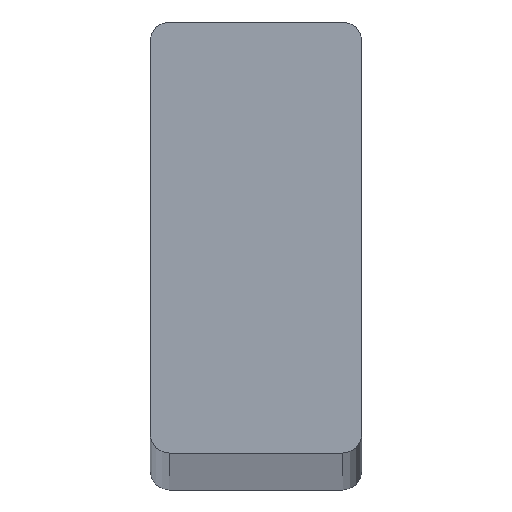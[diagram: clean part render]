
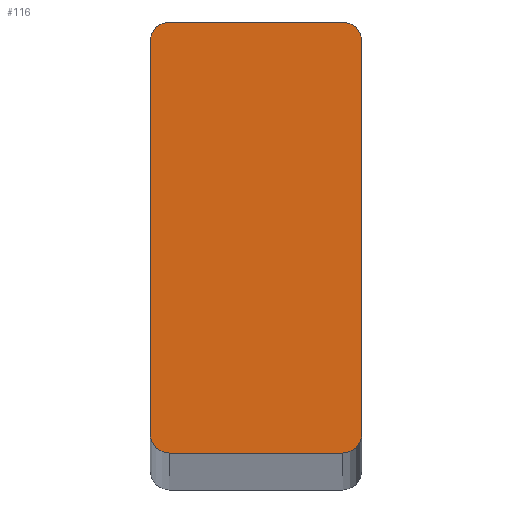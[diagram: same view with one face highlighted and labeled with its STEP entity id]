
A CAD part, top view. The second image highlights one B-rep face of the part: STEP entity #116.
In plain terms, the highlighted planar face has unit normal (0, 0, 1).
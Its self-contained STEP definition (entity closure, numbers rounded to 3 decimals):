
#1 = DIRECTION ( 'NONE',  ( 0., 1., 0. ) ) ;
#3 = AXIS2_PLACEMENT_3D ( 'NONE', #207, #364, #178 ) ;
#4 = LINE ( 'NONE', #344, #248 ) ;
#11 = CARTESIAN_POINT ( 'NONE',  ( 4.5, 10.2, 550. ) ) ;
#14 = CARTESIAN_POINT ( 'NONE',  ( 5.5, 10.2, 550. ) ) ;
#16 = ORIENTED_EDGE ( 'NONE', *, *, #242, .T. ) ;
#19 = DIRECTION ( 'NONE',  ( 1., 0., 0. ) ) ;
#30 = VECTOR ( 'NONE', #19, 1000. ) ;
#31 = EDGE_CURVE ( 'NONE', #192, #32, #4, .T. ) ;
#32 = VERTEX_POINT ( 'NONE', #191 ) ;
#35 = LINE ( 'NONE', #188, #30 ) ;
#38 = EDGE_CURVE ( 'NONE', #281, #59, #35, .T. ) ;
#53 = CARTESIAN_POINT ( 'NONE',  ( -5.5, -11.2, 550. ) ) ;
#59 = VERTEX_POINT ( 'NONE', #368 ) ;
#67 = VECTOR ( 'NONE', #328, 1000. ) ;
#69 = DIRECTION ( 'NONE',  ( 0., 0., 1. ) ) ;
#72 = CIRCLE ( 'NONE', #320, 1. ) ;
#75 = EDGE_LOOP ( 'NONE', ( #82, #266, #203, #164, #16, #202, #244, #235 ) ) ;
#77 = CIRCLE ( 'NONE', #154, 1. ) ;
#80 = CIRCLE ( 'NONE', #3, 1. ) ;
#82 = ORIENTED_EDGE ( 'NONE', *, *, #31, .T. ) ;
#87 = LINE ( 'NONE', #258, #101 ) ;
#101 = VECTOR ( 'NONE', #1, 1000. ) ;
#114 = VERTEX_POINT ( 'NONE', #14 ) ;
#116 = ADVANCED_FACE ( 'NONE', ( #185 ), #238, .T. ) ;
#117 = DIRECTION ( 'NONE',  ( 1., 0., 0. ) ) ;
#124 = VERTEX_POINT ( 'NONE', #179 ) ;
#133 = EDGE_CURVE ( 'NONE', #32, #281, #80, .T. ) ;
#141 = EDGE_CURVE ( 'NONE', #114, #160, #77, .T. ) ;
#145 = CARTESIAN_POINT ( 'NONE',  ( 4.5, -10.2, 550. ) ) ;
#153 = DIRECTION ( 'NONE',  ( 0., 0., 1. ) ) ;
#154 = AXIS2_PLACEMENT_3D ( 'NONE', #11, #206, #363 ) ;
#160 = VERTEX_POINT ( 'NONE', #176 ) ;
#164 = ORIENTED_EDGE ( 'NONE', *, *, #212, .T. ) ;
#172 = VERTEX_POINT ( 'NONE', #261 ) ;
#176 = CARTESIAN_POINT ( 'NONE',  ( 4.5, 11.2, 550. ) ) ;
#178 = DIRECTION ( 'NONE',  ( 1., 0., 0. ) ) ;
#179 = CARTESIAN_POINT ( 'NONE',  ( -4.5, 11.2, 550. ) ) ;
#185 = FACE_OUTER_BOUND ( 'NONE', #75, .T. ) ;
#186 = LINE ( 'NONE', #366, #67 ) ;
#188 = CARTESIAN_POINT ( 'NONE',  ( -5.5, -11.2, 550. ) ) ;
#191 = CARTESIAN_POINT ( 'NONE',  ( -5.5, -10.2, 550. ) ) ;
#192 = VERTEX_POINT ( 'NONE', #312 ) ;
#199 = AXIS2_PLACEMENT_3D ( 'NONE', #145, #310, #117 ) ;
#202 = ORIENTED_EDGE ( 'NONE', *, *, #141, .T. ) ;
#203 = ORIENTED_EDGE ( 'NONE', *, *, #38, .T. ) ;
#206 = DIRECTION ( 'NONE',  ( 0., 0., 1. ) ) ;
#207 = CARTESIAN_POINT ( 'NONE',  ( -4.5, -10.2, 550. ) ) ;
#212 = EDGE_CURVE ( 'NONE', #59, #172, #225, .T. ) ;
#219 = DIRECTION ( 'NONE',  ( 1., 0., 0. ) ) ;
#224 = AXIS2_PLACEMENT_3D ( 'NONE', #53, #153, #317 ) ;
#225 = CIRCLE ( 'NONE', #199, 1. ) ;
#235 = ORIENTED_EDGE ( 'NONE', *, *, #339, .T. ) ;
#238 = PLANE ( 'NONE',  #224 ) ;
#242 = EDGE_CURVE ( 'NONE', #172, #114, #87, .T. ) ;
#244 = ORIENTED_EDGE ( 'NONE', *, *, #327, .T. ) ;
#245 = CARTESIAN_POINT ( 'NONE',  ( -4.5, 10.2, 550. ) ) ;
#248 = VECTOR ( 'NONE', #326, 1000. ) ;
#258 = CARTESIAN_POINT ( 'NONE',  ( 5.5, 11.2, 550. ) ) ;
#261 = CARTESIAN_POINT ( 'NONE',  ( 5.5, -10.2, 550. ) ) ;
#266 = ORIENTED_EDGE ( 'NONE', *, *, #133, .T. ) ;
#281 = VERTEX_POINT ( 'NONE', #352 ) ;
#310 = DIRECTION ( 'NONE',  ( 0., 0., 1. ) ) ;
#312 = CARTESIAN_POINT ( 'NONE',  ( -5.5, 10.2, 550. ) ) ;
#317 = DIRECTION ( 'NONE',  ( 1., 0., 0. ) ) ;
#320 = AXIS2_PLACEMENT_3D ( 'NONE', #245, #69, #219 ) ;
#326 = DIRECTION ( 'NONE',  ( 0., -1., 0. ) ) ;
#327 = EDGE_CURVE ( 'NONE', #160, #124, #186, .T. ) ;
#328 = DIRECTION ( 'NONE',  ( -1., 0., 0. ) ) ;
#339 = EDGE_CURVE ( 'NONE', #124, #192, #72, .T. ) ;
#344 = CARTESIAN_POINT ( 'NONE',  ( -5.5, 11.2, 550. ) ) ;
#352 = CARTESIAN_POINT ( 'NONE',  ( -4.5, -11.2, 550. ) ) ;
#363 = DIRECTION ( 'NONE',  ( 1., 0., 0. ) ) ;
#364 = DIRECTION ( 'NONE',  ( 0., 0., 1. ) ) ;
#366 = CARTESIAN_POINT ( 'NONE',  ( -5.5, 11.2, 550. ) ) ;
#368 = CARTESIAN_POINT ( 'NONE',  ( 4.5, -11.2, 550. ) ) ;
